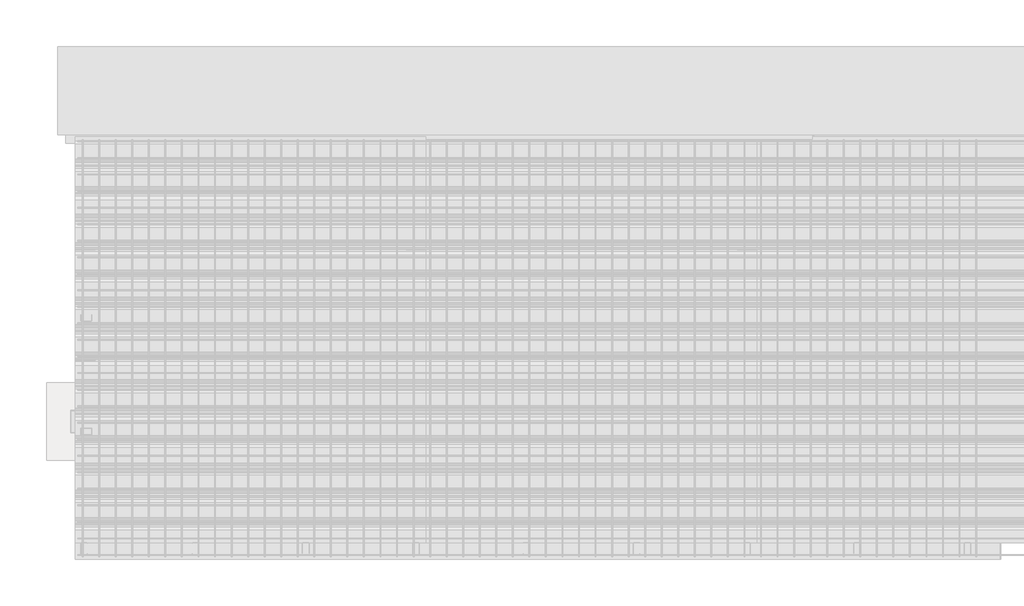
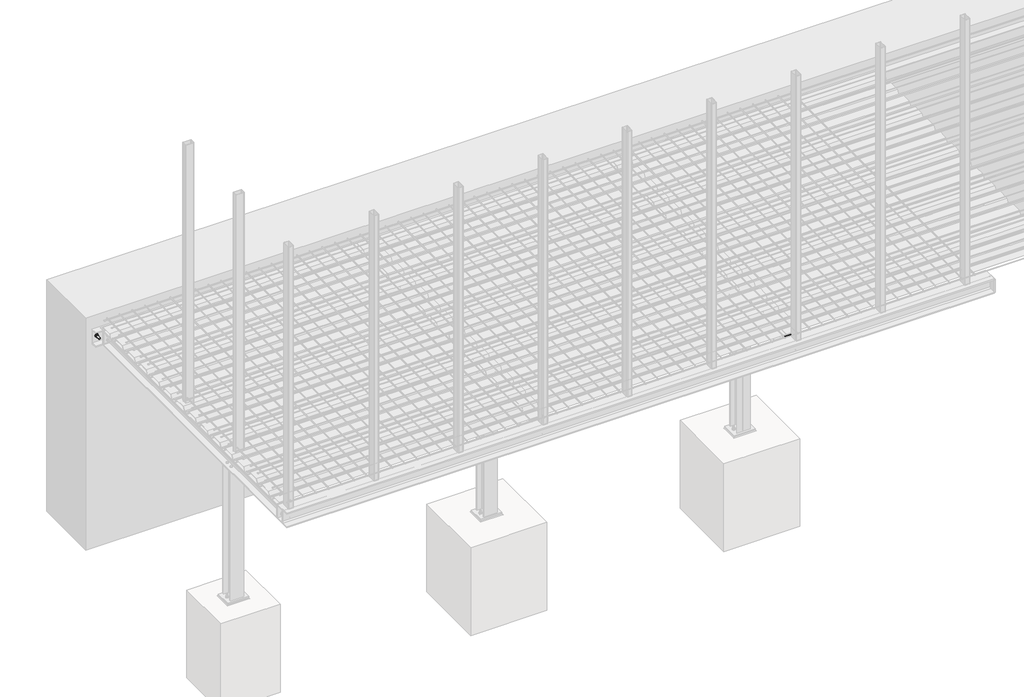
# One storey, part 9 of 36: 12 proxies.
"""IFC4 building model written with IfcOpenShell, lengths in millimetres."""

from ifc_helpers import new_model, si_unit, point, frame, frame_2d, origin, place, context, project, spatial, polyline, circle_curve, trimmed, segment, composite_curve, outline, extrude, element, save

model = new_model("IFC4")

# Units and contexts
model_context = context("Model", 3, world=origin())
ifc_project = project(units=[si_unit("LENGTHUNIT", "METRE", prefix="MILLI")], contexts=[model_context])

# Site, building, storey
site = spatial("IfcSite", under=ifc_project)
building = spatial("IfcBuilding", under=site)
storey = spatial("IfcBuildingStorey", under=building, Name="Základy", Elevation=-1200.0)

# Proxies
placement = place(None, origin())
element("IfcBuildingElementProxy", 1, Name="PLECH", ObjectType="PLECH", at=placement, inside=storey, context=model_context, shape_type="SweptSolid", body=[
    extrude(outline(polyline([(5940.0, 1200.0), (5940.0, 1320.0), (5950.0, 1320.0), (5950.0, 1200.0), (5940.0, 1200.0)])), frame((0.0, 0.0, -299.0), z_axis=(0.0, 0.0, 1.0), x_axis=(1.0, 0.0, 0.0)), (0.0, 0.0, 1.0), 98.0),
])
element("IfcBuildingElementProxy", 2, Name="PLECH", ObjectType="PLECH", at=placement, inside=storey, context=model_context, shape_type="SweptSolid", body=[
    extrude(outline(polyline([(2960.0, 3775.0), (3140.0, 3775.0), (3140.0, 3767.0), (2960.0, 3767.0), (2960.0, 3775.0)])), frame((0.0, 0.0, -316.0), z_axis=(0.0, 0.0, 1.0), x_axis=(1.0, 0.0, 0.0)), (0.0, 0.0, 1.0), 132.0),
])
element("IfcBuildingElementProxy", 3, Name="PLECH", ObjectType="PLECH", at=placement, inside=storey, context=model_context, shape_type="SweptSolid", body=[
    extrude(outline(polyline([(5950.0, 1200.0), (5950.0, 1320.0), (5960.0, 1320.0), (5960.0, 1200.0), (5950.0, 1200.0)])), frame((0.0, 0.0, -332.0), z_axis=(0.0, 0.0, 1.0), x_axis=(1.0, 0.0, 0.0)), (0.0, 0.0, 1.0), 164.0),
])
element("IfcBuildingElementProxy", 4, Name="PLECH", ObjectType="PLECH", at=placement, inside=storey, context=model_context, shape_type="SweptSolid", body=[
    extrude(outline(polyline([(5960.0, 210.0), (6140.0, 210.0), (6140.0, 200.0), (5960.0, 200.0), (5960.0, 210.0)])), frame((0.0, 0.0, -332.0), z_axis=(0.0, 0.0, 1.0), x_axis=(1.0, 0.0, 0.0)), (0.0, 0.0, 1.0), 164.0),
])
element("IfcBuildingElementProxy", 5, Name="PLECH", ObjectType="PLECH", at=placement, inside=storey, context=model_context, shape_type="SweptSolid", body=[
    extrude(outline(composite_curve([segment(polyline([(3785.0, -170.5), (3834.5, -170.5)]), True, "CONTINUOUS"), segment(trimmed(circle_curve(frame_2d((3854.5, -170.5)), 20.0), [point((3834.5, -170.5))], [point((3854.5, -190.5))], True, "CARTESIAN"), True, "CONTINUOUS"), segment(polyline([(3854.5, -190.5), (3854.5, -309.5)]), True, "CONTINUOUS"), segment(trimmed(circle_curve(frame_2d((3854.5, -329.5)), 20.0), [point((3854.5, -309.5))], [point((3834.5, -329.5))], True, "CARTESIAN"), True, "CONTINUOUS"), segment(polyline([(3834.5, -329.5), (3785.0, -329.5), (3785.0, -170.5)]), True, "CONTINUOUS")], self_intersect=False)), frame((3046.0, 0.0, 0.0), z_axis=(1.0, 0.0, 0.0), x_axis=(0.0, 1.0, 0.0)), (0.0, 0.0, 1.0), 8.0),
])
element("IfcBuildingElementProxy", 6, Name="PLECH", ObjectType="PLECH", at=placement, inside=storey, context=model_context, shape_type="SweptSolid", body=[
    extrude(outline(polyline([(2960.0, 3785.0), (3140.0, 3785.0), (3140.0, 3775.0), (2960.0, 3775.0), (2960.0, 3785.0)])), frame((0.0, 0.0, -332.0), z_axis=(0.0, 0.0, 1.0), x_axis=(1.0, 0.0, 0.0)), (0.0, 0.0, 1.0), 164.0),
])
element("IfcBuildingElementProxy", 7, Name="PLECH", ObjectType="PLECH", at=placement, inside=storey, context=model_context, shape_type="SweptSolid", body=[
    extrude(outline(composite_curve([segment(polyline([(190.0, -174.0), (190.0, -326.0), (124.25, -326.0)]), True, "CONTINUOUS"), segment(trimmed(circle_curve(frame_2d((104.25, -326.0)), 20.0), [point((124.25, -326.0))], [point((104.25, -306.0))], True, "CARTESIAN"), True, "CONTINUOUS"), segment(polyline([(104.25, -306.0), (104.25, -194.0)]), True, "CONTINUOUS"), segment(trimmed(circle_curve(frame_2d((104.25, -174.0)), 20.0), [point((104.25, -194.0))], [point((124.25, -174.0))], True, "CARTESIAN"), True, "CONTINUOUS"), segment(polyline([(124.25, -174.0), (190.0, -174.0)]), True, "CONTINUOUS")], self_intersect=False)), frame((6046.0, 0.0, 0.0), z_axis=(1.0, 0.0, 0.0), x_axis=(0.0, 1.0, 0.0)), (0.0, 0.0, 1.0), 8.0),
])
element("IfcBuildingElementProxy", 8, Name="PLECH", ObjectType="PLECH", at=placement, inside=storey, context=model_context, shape_type="SweptSolid", body=[
    extrude(outline(polyline([(5960.0, 200.0), (6140.0, 200.0), (6140.0, 190.0), (5960.0, 190.0), (5960.0, 200.0)])), frame((0.0, 0.0, -332.0), z_axis=(0.0, 0.0, 1.0), x_axis=(1.0, 0.0, 0.0)), (0.0, 0.0, 1.0), 164.0),
])
element("IfcBuildingElementProxy", 9, Name="Bolt assembly", ObjectType="Bolt assembly", at=placement, inside=storey, context=model_context, shape_type="SweptSolid", body=[
    extrude(outline(composite_curve([segment(trimmed(circle_curve(frame_2d((1230.0, -225.0)), 6.5), [point((1230.0, -231.5))], [point((1230.0, -218.5))], False, "CARTESIAN"), True, "CONTINUOUS"), segment(trimmed(circle_curve(frame_2d((1230.0, -225.0)), 6.5), [point((1230.0, -218.5))], [point((1230.0, -231.5))], False, "CARTESIAN"), True, "CONTINUOUS")], self_intersect=False)), frame((5949.9, 0.0, 0.0), z_axis=(1.0, 0.0, 0.0), x_axis=(0.0, 1.0, 0.0)), (0.0, 0.0, 1.0), 10.0),
    extrude(outline(polyline([(1230.0, -235.3923048), (1221.0, -230.1961524), (1221.0, -219.8038476), (1230.0, -214.6076952), (1239.0, -219.8038476), (1239.0, -230.1961524), (1230.0, -235.3923048)])), frame((5962.5, 0.0, 0.0), z_axis=(1.0, 0.0, 0.0), x_axis=(0.0, 1.0, 0.0)), (0.0, 0.0, 1.0), 7.5),
    extrude(outline(composite_curve([segment(trimmed(circle_curve(frame_2d((1230.0, -225.0)), 6.0), [point((1230.0, -231.0))], [point((1230.0, -219.0))], False, "CARTESIAN"), True, "CONTINUOUS"), segment(trimmed(circle_curve(frame_2d((1230.0, -225.0)), 6.0), [point((1230.0, -219.0))], [point((1230.0, -231.0))], False, "CARTESIAN"), True, "CONTINUOUS")], self_intersect=False)), frame((5922.5, 0.0, 0.0), z_axis=(1.0, 0.0, 0.0), x_axis=(0.0, 1.0, 0.0)), (0.0, 0.0, 1.0), 40.0),
    extrude(outline(composite_curve([segment(trimmed(circle_curve(frame_2d((1230.0, -225.0)), 12.0), [point((1230.0, -237.0))], [point((1230.0, -213.0))], False, "CARTESIAN"), True, "CONTINUOUS"), segment(trimmed(circle_curve(frame_2d((1230.0, -225.0)), 12.0), [point((1230.0, -213.0))], [point((1230.0, -237.0))], False, "CARTESIAN"), True, "CONTINUOUS")], self_intersect=False)), frame((5960.0, 0.0, 0.0), z_axis=(1.0, 0.0, 0.0), x_axis=(0.0, 1.0, 0.0)), (0.0, 0.0, 1.0), 2.5),
    extrude(outline(composite_curve([segment(trimmed(circle_curve(frame_2d((1230.0, -225.0)), 12.0), [point((1230.0, -237.0))], [point((1230.0, -213.0))], False, "CARTESIAN"), True, "CONTINUOUS"), segment(trimmed(circle_curve(frame_2d((1230.0, -225.0)), 12.0), [point((1230.0, -213.0))], [point((1230.0, -237.0))], False, "CARTESIAN"), True, "CONTINUOUS")], self_intersect=False)), frame((5937.5, 0.0, 0.0), z_axis=(1.0, 0.0, 0.0), x_axis=(0.0, 1.0, 0.0)), (0.0, 0.0, 1.0), 2.5),
    extrude(outline(polyline([(1230.0, -235.9696551), (1220.5, -230.4848276), (1220.5, -219.5151724), (1230.0, -214.0303449), (1239.5, -219.5151724), (1239.5, -230.4848276), (1230.0, -235.9696551)])), frame((5927.5, 0.0, 0.0), z_axis=(1.0, 0.0, 0.0), x_axis=(0.0, 1.0, 0.0)), (0.0, 0.0, 1.0), 10.0),
    extrude(outline(composite_curve([segment(trimmed(circle_curve(frame_2d((1230.0, -225.0)), 6.5), [point((1230.0, -231.5))], [point((1230.0, -218.5))], False, "CARTESIAN"), True, "CONTINUOUS"), segment(trimmed(circle_curve(frame_2d((1230.0, -225.0)), 6.5), [point((1230.0, -218.5))], [point((1230.0, -231.5))], False, "CARTESIAN"), True, "CONTINUOUS")], self_intersect=False)), frame((5940.0, 0.0, 0.0), z_axis=(1.0, 0.0, 0.0), x_axis=(0.0, 1.0, 0.0)), (0.0, 0.0, 1.0), 10.1),
    extrude(outline(composite_curve([segment(trimmed(circle_curve(frame_2d((1230.0, -275.0)), 6.5), [point((1230.0, -281.5))], [point((1230.0, -268.5))], False, "CARTESIAN"), True, "CONTINUOUS"), segment(trimmed(circle_curve(frame_2d((1230.0, -275.0)), 6.5), [point((1230.0, -268.5))], [point((1230.0, -281.5))], False, "CARTESIAN"), True, "CONTINUOUS")], self_intersect=False)), frame((5949.9, 0.0, 0.0), z_axis=(1.0, 0.0, 0.0), x_axis=(0.0, 1.0, 0.0)), (0.0, 0.0, 1.0), 10.0),
    extrude(outline(polyline([(1230.0, -285.3923048), (1221.0, -280.1961524), (1221.0, -269.8038476), (1230.0, -264.6076952), (1239.0, -269.8038476), (1239.0, -280.1961524), (1230.0, -285.3923048)])), frame((5962.5, 0.0, 0.0), z_axis=(1.0, 0.0, 0.0), x_axis=(0.0, 1.0, 0.0)), (0.0, 0.0, 1.0), 7.5),
    extrude(outline(composite_curve([segment(trimmed(circle_curve(frame_2d((1230.0, -275.0)), 6.0), [point((1230.0, -281.0))], [point((1230.0, -269.0))], False, "CARTESIAN"), True, "CONTINUOUS"), segment(trimmed(circle_curve(frame_2d((1230.0, -275.0)), 6.0), [point((1230.0, -269.0))], [point((1230.0, -281.0))], False, "CARTESIAN"), True, "CONTINUOUS")], self_intersect=False)), frame((5922.5, 0.0, 0.0), z_axis=(1.0, 0.0, 0.0), x_axis=(0.0, 1.0, 0.0)), (0.0, 0.0, 1.0), 40.0),
    extrude(outline(composite_curve([segment(trimmed(circle_curve(frame_2d((1230.0, -275.0)), 12.0), [point((1230.0, -287.0))], [point((1230.0, -263.0))], False, "CARTESIAN"), True, "CONTINUOUS"), segment(trimmed(circle_curve(frame_2d((1230.0, -275.0)), 12.0), [point((1230.0, -263.0))], [point((1230.0, -287.0))], False, "CARTESIAN"), True, "CONTINUOUS")], self_intersect=False)), frame((5960.0, 0.0, 0.0), z_axis=(1.0, 0.0, 0.0), x_axis=(0.0, 1.0, 0.0)), (0.0, 0.0, 1.0), 2.5),
    extrude(outline(composite_curve([segment(trimmed(circle_curve(frame_2d((1230.0, -275.0)), 12.0), [point((1230.0, -287.0))], [point((1230.0, -263.0))], False, "CARTESIAN"), True, "CONTINUOUS"), segment(trimmed(circle_curve(frame_2d((1230.0, -275.0)), 12.0), [point((1230.0, -263.0))], [point((1230.0, -287.0))], False, "CARTESIAN"), True, "CONTINUOUS")], self_intersect=False)), frame((5937.5, 0.0, 0.0), z_axis=(1.0, 0.0, 0.0), x_axis=(0.0, 1.0, 0.0)), (0.0, 0.0, 1.0), 2.5),
    extrude(outline(polyline([(1230.0, -285.9696551), (1220.5, -280.4848276), (1220.5, -269.5151724), (1230.0, -264.0303449), (1239.5, -269.5151724), (1239.5, -280.4848276), (1230.0, -285.9696551)])), frame((5927.5, 0.0, 0.0), z_axis=(1.0, 0.0, 0.0), x_axis=(0.0, 1.0, 0.0)), (0.0, 0.0, 1.0), 10.0),
    extrude(outline(composite_curve([segment(trimmed(circle_curve(frame_2d((1230.0, -275.0)), 6.5), [point((1230.0, -281.5))], [point((1230.0, -268.5))], False, "CARTESIAN"), True, "CONTINUOUS"), segment(trimmed(circle_curve(frame_2d((1230.0, -275.0)), 6.5), [point((1230.0, -268.5))], [point((1230.0, -281.5))], False, "CARTESIAN"), True, "CONTINUOUS")], self_intersect=False)), frame((5940.0, 0.0, 0.0), z_axis=(1.0, 0.0, 0.0), x_axis=(0.0, 1.0, 0.0)), (0.0, 0.0, 1.0), 10.1),
    extrude(outline(composite_curve([segment(trimmed(circle_curve(frame_2d((1290.0, -225.0)), 6.5), [point((1290.0, -231.5))], [point((1290.0, -218.5))], False, "CARTESIAN"), True, "CONTINUOUS"), segment(trimmed(circle_curve(frame_2d((1290.0, -225.0)), 6.5), [point((1290.0, -218.5))], [point((1290.0, -231.5))], False, "CARTESIAN"), True, "CONTINUOUS")], self_intersect=False)), frame((5949.9, 0.0, 0.0), z_axis=(1.0, 0.0, 0.0), x_axis=(0.0, 1.0, 0.0)), (0.0, 0.0, 1.0), 10.0),
    extrude(outline(polyline([(1290.0, -235.3923048), (1281.0, -230.1961524), (1281.0, -219.8038476), (1290.0, -214.6076952), (1299.0, -219.8038476), (1299.0, -230.1961524), (1290.0, -235.3923048)])), frame((5962.5, 0.0, 0.0), z_axis=(1.0, 0.0, 0.0), x_axis=(0.0, 1.0, 0.0)), (0.0, 0.0, 1.0), 7.5),
    extrude(outline(composite_curve([segment(trimmed(circle_curve(frame_2d((1290.0, -225.0)), 6.0), [point((1290.0, -231.0))], [point((1290.0, -219.0))], False, "CARTESIAN"), True, "CONTINUOUS"), segment(trimmed(circle_curve(frame_2d((1290.0, -225.0)), 6.0), [point((1290.0, -219.0))], [point((1290.0, -231.0))], False, "CARTESIAN"), True, "CONTINUOUS")], self_intersect=False)), frame((5922.5, 0.0, 0.0), z_axis=(1.0, 0.0, 0.0), x_axis=(0.0, 1.0, 0.0)), (0.0, 0.0, 1.0), 40.0),
    extrude(outline(composite_curve([segment(trimmed(circle_curve(frame_2d((1290.0, -225.0)), 12.0), [point((1290.0, -237.0))], [point((1290.0, -213.0))], False, "CARTESIAN"), True, "CONTINUOUS"), segment(trimmed(circle_curve(frame_2d((1290.0, -225.0)), 12.0), [point((1290.0, -213.0))], [point((1290.0, -237.0))], False, "CARTESIAN"), True, "CONTINUOUS")], self_intersect=False)), frame((5960.0, 0.0, 0.0), z_axis=(1.0, 0.0, 0.0), x_axis=(0.0, 1.0, 0.0)), (0.0, 0.0, 1.0), 2.5),
    extrude(outline(composite_curve([segment(trimmed(circle_curve(frame_2d((1290.0, -225.0)), 12.0), [point((1290.0, -237.0))], [point((1290.0, -213.0))], False, "CARTESIAN"), True, "CONTINUOUS"), segment(trimmed(circle_curve(frame_2d((1290.0, -225.0)), 12.0), [point((1290.0, -213.0))], [point((1290.0, -237.0))], False, "CARTESIAN"), True, "CONTINUOUS")], self_intersect=False)), frame((5937.5, 0.0, 0.0), z_axis=(1.0, 0.0, 0.0), x_axis=(0.0, 1.0, 0.0)), (0.0, 0.0, 1.0), 2.5),
    extrude(outline(polyline([(1290.0, -235.9696551), (1280.5, -230.4848276), (1280.5, -219.5151724), (1290.0, -214.0303449), (1299.5, -219.5151724), (1299.5, -230.4848276), (1290.0, -235.9696551)])), frame((5927.5, 0.0, 0.0), z_axis=(1.0, 0.0, 0.0), x_axis=(0.0, 1.0, 0.0)), (0.0, 0.0, 1.0), 10.0),
    extrude(outline(composite_curve([segment(trimmed(circle_curve(frame_2d((1290.0, -225.0)), 6.5), [point((1290.0, -231.5))], [point((1290.0, -218.5))], False, "CARTESIAN"), True, "CONTINUOUS"), segment(trimmed(circle_curve(frame_2d((1290.0, -225.0)), 6.5), [point((1290.0, -218.5))], [point((1290.0, -231.5))], False, "CARTESIAN"), True, "CONTINUOUS")], self_intersect=False)), frame((5940.0, 0.0, 0.0), z_axis=(1.0, 0.0, 0.0), x_axis=(0.0, 1.0, 0.0)), (0.0, 0.0, 1.0), 10.1),
    extrude(outline(composite_curve([segment(trimmed(circle_curve(frame_2d((1290.0, -275.0)), 6.5), [point((1290.0, -281.5))], [point((1290.0, -268.5))], False, "CARTESIAN"), True, "CONTINUOUS"), segment(trimmed(circle_curve(frame_2d((1290.0, -275.0)), 6.5), [point((1290.0, -268.5))], [point((1290.0, -281.5))], False, "CARTESIAN"), True, "CONTINUOUS")], self_intersect=False)), frame((5949.9, 0.0, 0.0), z_axis=(1.0, 0.0, 0.0), x_axis=(0.0, 1.0, 0.0)), (0.0, 0.0, 1.0), 10.0),
    extrude(outline(polyline([(1290.0, -285.3923048), (1281.0, -280.1961524), (1281.0, -269.8038476), (1290.0, -264.6076952), (1299.0, -269.8038476), (1299.0, -280.1961524), (1290.0, -285.3923048)])), frame((5962.5, 0.0, 0.0), z_axis=(1.0, 0.0, 0.0), x_axis=(0.0, 1.0, 0.0)), (0.0, 0.0, 1.0), 7.5),
    extrude(outline(composite_curve([segment(trimmed(circle_curve(frame_2d((1290.0, -275.0)), 6.0), [point((1290.0, -281.0))], [point((1290.0, -269.0))], False, "CARTESIAN"), True, "CONTINUOUS"), segment(trimmed(circle_curve(frame_2d((1290.0, -275.0)), 6.0), [point((1290.0, -269.0))], [point((1290.0, -281.0))], False, "CARTESIAN"), True, "CONTINUOUS")], self_intersect=False)), frame((5922.5, 0.0, 0.0), z_axis=(1.0, 0.0, 0.0), x_axis=(0.0, 1.0, 0.0)), (0.0, 0.0, 1.0), 40.0),
    extrude(outline(composite_curve([segment(trimmed(circle_curve(frame_2d((1290.0, -275.0)), 12.0), [point((1290.0, -287.0))], [point((1290.0, -263.0))], False, "CARTESIAN"), True, "CONTINUOUS"), segment(trimmed(circle_curve(frame_2d((1290.0, -275.0)), 12.0), [point((1290.0, -263.0))], [point((1290.0, -287.0))], False, "CARTESIAN"), True, "CONTINUOUS")], self_intersect=False)), frame((5960.0, 0.0, 0.0), z_axis=(1.0, 0.0, 0.0), x_axis=(0.0, 1.0, 0.0)), (0.0, 0.0, 1.0), 2.5),
    extrude(outline(composite_curve([segment(trimmed(circle_curve(frame_2d((1290.0, -275.0)), 12.0), [point((1290.0, -287.0))], [point((1290.0, -263.0))], False, "CARTESIAN"), True, "CONTINUOUS"), segment(trimmed(circle_curve(frame_2d((1290.0, -275.0)), 12.0), [point((1290.0, -263.0))], [point((1290.0, -287.0))], False, "CARTESIAN"), True, "CONTINUOUS")], self_intersect=False)), frame((5937.5, 0.0, 0.0), z_axis=(1.0, 0.0, 0.0), x_axis=(0.0, 1.0, 0.0)), (0.0, 0.0, 1.0), 2.5),
    extrude(outline(polyline([(1290.0, -285.9696551), (1280.5, -280.4848276), (1280.5, -269.5151724), (1290.0, -264.0303449), (1299.5, -269.5151724), (1299.5, -280.4848276), (1290.0, -285.9696551)])), frame((5927.5, 0.0, 0.0), z_axis=(1.0, 0.0, 0.0), x_axis=(0.0, 1.0, 0.0)), (0.0, 0.0, 1.0), 10.0),
    extrude(outline(composite_curve([segment(trimmed(circle_curve(frame_2d((1290.0, -275.0)), 6.5), [point((1290.0, -281.5))], [point((1290.0, -268.5))], False, "CARTESIAN"), True, "CONTINUOUS"), segment(trimmed(circle_curve(frame_2d((1290.0, -275.0)), 6.5), [point((1290.0, -268.5))], [point((1290.0, -281.5))], False, "CARTESIAN"), True, "CONTINUOUS")], self_intersect=False)), frame((5940.0, 0.0, 0.0), z_axis=(1.0, 0.0, 0.0), x_axis=(0.0, 1.0, 0.0)), (0.0, 0.0, 1.0), 10.1),
])
element("IfcBuildingElementProxy", 10, Name="Bolt assembly", ObjectType="Bolt assembly", at=placement, inside=storey, context=model_context, shape_type="SweptSolid", body=[
    extrude(outline(composite_curve([segment(trimmed(circle_curve(frame_2d((-220.0, 3005.0)), 9.0), [point((-220.0, 3014.0))], [point((-220.0, 2996.0))], False, "CARTESIAN"), True, "CONTINUOUS"), segment(trimmed(circle_curve(frame_2d((-220.0, 3005.0)), 9.0), [point((-220.0, 2996.0))], [point((-220.0, 3014.0))], False, "CARTESIAN"), True, "CONTINUOUS")], self_intersect=False)), frame((0.0, 3774.9, 0.0), z_axis=(0.0, 1.0, 0.0), x_axis=(0.0, 0.0, 1.0)), (0.0, 0.0, 1.0), 10.0),
    extrude(outline(polyline([(-220.0, 3018.8564065), (-208.0, 3011.9282032), (-208.0, 2998.0717968), (-220.0, 2991.1435935), (-232.0, 2998.0717968), (-232.0, 3011.9282032), (-220.0, 3018.8564065)])), frame((0.0, 3788.0, 0.0), z_axis=(0.0, 1.0, 0.0), x_axis=(0.0, 0.0, 1.0)), (0.0, 0.0, 1.0), 10.0),
    extrude(outline(composite_curve([segment(trimmed(circle_curve(frame_2d((-220.0, 3005.0)), 8.0), [point((-220.0, 3013.0))], [point((-220.0, 2997.0))], False, "CARTESIAN"), True, "CONTINUOUS"), segment(trimmed(circle_curve(frame_2d((-220.0, 3005.0)), 8.0), [point((-220.0, 2997.0))], [point((-220.0, 3013.0))], False, "CARTESIAN"), True, "CONTINUOUS")], self_intersect=False)), frame((0.0, 3738.0, 0.0), z_axis=(0.0, 1.0, 0.0), x_axis=(0.0, 0.0, 1.0)), (0.0, 0.0, 1.0), 50.0),
    extrude(outline(composite_curve([segment(trimmed(circle_curve(frame_2d((-220.0, 3005.0)), 15.0), [point((-220.0, 3020.0))], [point((-220.0, 2990.0))], False, "CARTESIAN"), True, "CONTINUOUS"), segment(trimmed(circle_curve(frame_2d((-220.0, 3005.0)), 15.0), [point((-220.0, 2990.0))], [point((-220.0, 3020.0))], False, "CARTESIAN"), True, "CONTINUOUS")], self_intersect=False)), frame((0.0, 3785.0, 0.0), z_axis=(0.0, 1.0, 0.0), x_axis=(0.0, 0.0, 1.0)), (0.0, 0.0, 1.0), 3.0),
    extrude(outline(composite_curve([segment(trimmed(circle_curve(frame_2d((-220.0, 3005.0)), 15.0), [point((-220.0, 3020.0))], [point((-220.0, 2990.0))], False, "CARTESIAN"), True, "CONTINUOUS"), segment(trimmed(circle_curve(frame_2d((-220.0, 3005.0)), 15.0), [point((-220.0, 2990.0))], [point((-220.0, 3020.0))], False, "CARTESIAN"), True, "CONTINUOUS")], self_intersect=False)), frame((0.0, 3764.0, 0.0), z_axis=(0.0, 1.0, 0.0), x_axis=(0.0, 0.0, 1.0)), (0.0, 0.0, 1.0), 3.0),
    extrude(outline(polyline([(-220.0, 3020.4441197), (-206.625, 3012.7220599), (-206.625, 2997.2779401), (-220.0, 2989.5558803), (-233.375, 2997.2779401), (-233.375, 3012.7220599), (-220.0, 3020.4441197)])), frame((0.0, 3751.0, 0.0), z_axis=(0.0, 1.0, 0.0), x_axis=(0.0, 0.0, 1.0)), (0.0, 0.0, 1.0), 13.0),
    extrude(outline(composite_curve([segment(trimmed(circle_curve(frame_2d((-220.0, 3005.0)), 9.0), [point((-220.0, 3014.0))], [point((-220.0, 2996.0))], False, "CARTESIAN"), True, "CONTINUOUS"), segment(trimmed(circle_curve(frame_2d((-220.0, 3005.0)), 9.0), [point((-220.0, 2996.0))], [point((-220.0, 3014.0))], False, "CARTESIAN"), True, "CONTINUOUS")], self_intersect=False)), frame((0.0, 3767.0, 0.0), z_axis=(0.0, 1.0, 0.0), x_axis=(0.0, 0.0, 1.0)), (0.0, 0.0, 1.0), 8.1),
    extrude(outline(composite_curve([segment(trimmed(circle_curve(frame_2d((-220.0, 3095.0)), 9.0), [point((-220.0, 3104.0))], [point((-220.0, 3086.0))], False, "CARTESIAN"), True, "CONTINUOUS"), segment(trimmed(circle_curve(frame_2d((-220.0, 3095.0)), 9.0), [point((-220.0, 3086.0))], [point((-220.0, 3104.0))], False, "CARTESIAN"), True, "CONTINUOUS")], self_intersect=False)), frame((0.0, 3774.9, 0.0), z_axis=(0.0, 1.0, 0.0), x_axis=(0.0, 0.0, 1.0)), (0.0, 0.0, 1.0), 10.0),
    extrude(outline(polyline([(-220.0, 3108.8564065), (-208.0, 3101.9282032), (-208.0, 3088.0717968), (-220.0, 3081.1435935), (-232.0, 3088.0717968), (-232.0, 3101.9282032), (-220.0, 3108.8564065)])), frame((0.0, 3788.0, 0.0), z_axis=(0.0, 1.0, 0.0), x_axis=(0.0, 0.0, 1.0)), (0.0, 0.0, 1.0), 10.0),
    extrude(outline(composite_curve([segment(trimmed(circle_curve(frame_2d((-220.0, 3095.0)), 8.0), [point((-220.0, 3103.0))], [point((-220.0, 3087.0))], False, "CARTESIAN"), True, "CONTINUOUS"), segment(trimmed(circle_curve(frame_2d((-220.0, 3095.0)), 8.0), [point((-220.0, 3087.0))], [point((-220.0, 3103.0))], False, "CARTESIAN"), True, "CONTINUOUS")], self_intersect=False)), frame((0.0, 3738.0, 0.0), z_axis=(0.0, 1.0, 0.0), x_axis=(0.0, 0.0, 1.0)), (0.0, 0.0, 1.0), 50.0),
    extrude(outline(composite_curve([segment(trimmed(circle_curve(frame_2d((-220.0, 3095.0)), 15.0), [point((-220.0, 3110.0))], [point((-220.0, 3080.0))], False, "CARTESIAN"), True, "CONTINUOUS"), segment(trimmed(circle_curve(frame_2d((-220.0, 3095.0)), 15.0), [point((-220.0, 3080.0))], [point((-220.0, 3110.0))], False, "CARTESIAN"), True, "CONTINUOUS")], self_intersect=False)), frame((0.0, 3785.0, 0.0), z_axis=(0.0, 1.0, 0.0), x_axis=(0.0, 0.0, 1.0)), (0.0, 0.0, 1.0), 3.0),
    extrude(outline(composite_curve([segment(trimmed(circle_curve(frame_2d((-220.0, 3095.0)), 15.0), [point((-220.0, 3110.0))], [point((-220.0, 3080.0))], False, "CARTESIAN"), True, "CONTINUOUS"), segment(trimmed(circle_curve(frame_2d((-220.0, 3095.0)), 15.0), [point((-220.0, 3080.0))], [point((-220.0, 3110.0))], False, "CARTESIAN"), True, "CONTINUOUS")], self_intersect=False)), frame((0.0, 3764.0, 0.0), z_axis=(0.0, 1.0, 0.0), x_axis=(0.0, 0.0, 1.0)), (0.0, 0.0, 1.0), 3.0),
    extrude(outline(polyline([(-220.0, 3110.4441197), (-206.625, 3102.7220599), (-206.625, 3087.2779401), (-220.0, 3079.5558803), (-233.375, 3087.2779401), (-233.375, 3102.7220599), (-220.0, 3110.4441197)])), frame((0.0, 3751.0, 0.0), z_axis=(0.0, 1.0, 0.0), x_axis=(0.0, 0.0, 1.0)), (0.0, 0.0, 1.0), 13.0),
    extrude(outline(composite_curve([segment(trimmed(circle_curve(frame_2d((-220.0, 3095.0)), 9.0), [point((-220.0, 3104.0))], [point((-220.0, 3086.0))], False, "CARTESIAN"), True, "CONTINUOUS"), segment(trimmed(circle_curve(frame_2d((-220.0, 3095.0)), 9.0), [point((-220.0, 3086.0))], [point((-220.0, 3104.0))], False, "CARTESIAN"), True, "CONTINUOUS")], self_intersect=False)), frame((0.0, 3767.0, 0.0), z_axis=(0.0, 1.0, 0.0), x_axis=(0.0, 0.0, 1.0)), (0.0, 0.0, 1.0), 8.1),
    extrude(outline(composite_curve([segment(trimmed(circle_curve(frame_2d((-280.0, 3005.0)), 9.0), [point((-280.0, 3014.0))], [point((-280.0, 2996.0))], False, "CARTESIAN"), True, "CONTINUOUS"), segment(trimmed(circle_curve(frame_2d((-280.0, 3005.0)), 9.0), [point((-280.0, 2996.0))], [point((-280.0, 3014.0))], False, "CARTESIAN"), True, "CONTINUOUS")], self_intersect=False)), frame((0.0, 3774.9, 0.0), z_axis=(0.0, 1.0, 0.0), x_axis=(0.0, 0.0, 1.0)), (0.0, 0.0, 1.0), 10.0),
    extrude(outline(polyline([(-280.0, 3018.8564065), (-268.0, 3011.9282032), (-268.0, 2998.0717968), (-280.0, 2991.1435935), (-292.0, 2998.0717968), (-292.0, 3011.9282032), (-280.0, 3018.8564065)])), frame((0.0, 3788.0, 0.0), z_axis=(0.0, 1.0, 0.0), x_axis=(0.0, 0.0, 1.0)), (0.0, 0.0, 1.0), 10.0),
    extrude(outline(composite_curve([segment(trimmed(circle_curve(frame_2d((-280.0, 3005.0)), 8.0), [point((-280.0, 3013.0))], [point((-280.0, 2997.0))], False, "CARTESIAN"), True, "CONTINUOUS"), segment(trimmed(circle_curve(frame_2d((-280.0, 3005.0)), 8.0), [point((-280.0, 2997.0))], [point((-280.0, 3013.0))], False, "CARTESIAN"), True, "CONTINUOUS")], self_intersect=False)), frame((0.0, 3738.0, 0.0), z_axis=(0.0, 1.0, 0.0), x_axis=(0.0, 0.0, 1.0)), (0.0, 0.0, 1.0), 50.0),
    extrude(outline(composite_curve([segment(trimmed(circle_curve(frame_2d((-280.0, 3005.0)), 15.0), [point((-280.0, 3020.0))], [point((-280.0, 2990.0))], False, "CARTESIAN"), True, "CONTINUOUS"), segment(trimmed(circle_curve(frame_2d((-280.0, 3005.0)), 15.0), [point((-280.0, 2990.0))], [point((-280.0, 3020.0))], False, "CARTESIAN"), True, "CONTINUOUS")], self_intersect=False)), frame((0.0, 3785.0, 0.0), z_axis=(0.0, 1.0, 0.0), x_axis=(0.0, 0.0, 1.0)), (0.0, 0.0, 1.0), 3.0),
    extrude(outline(composite_curve([segment(trimmed(circle_curve(frame_2d((-280.0, 3005.0)), 15.0), [point((-280.0, 3020.0))], [point((-280.0, 2990.0))], False, "CARTESIAN"), True, "CONTINUOUS"), segment(trimmed(circle_curve(frame_2d((-280.0, 3005.0)), 15.0), [point((-280.0, 2990.0))], [point((-280.0, 3020.0))], False, "CARTESIAN"), True, "CONTINUOUS")], self_intersect=False)), frame((0.0, 3764.0, 0.0), z_axis=(0.0, 1.0, 0.0), x_axis=(0.0, 0.0, 1.0)), (0.0, 0.0, 1.0), 3.0),
    extrude(outline(polyline([(-280.0, 3020.4441197), (-266.625, 3012.7220599), (-266.625, 2997.2779401), (-280.0, 2989.5558803), (-293.375, 2997.2779401), (-293.375, 3012.7220599), (-280.0, 3020.4441197)])), frame((0.0, 3751.0, 0.0), z_axis=(0.0, 1.0, 0.0), x_axis=(0.0, 0.0, 1.0)), (0.0, 0.0, 1.0), 13.0),
    extrude(outline(composite_curve([segment(trimmed(circle_curve(frame_2d((-280.0, 3005.0)), 9.0), [point((-280.0, 3014.0))], [point((-280.0, 2996.0))], False, "CARTESIAN"), True, "CONTINUOUS"), segment(trimmed(circle_curve(frame_2d((-280.0, 3005.0)), 9.0), [point((-280.0, 2996.0))], [point((-280.0, 3014.0))], False, "CARTESIAN"), True, "CONTINUOUS")], self_intersect=False)), frame((0.0, 3767.0, 0.0), z_axis=(0.0, 1.0, 0.0), x_axis=(0.0, 0.0, 1.0)), (0.0, 0.0, 1.0), 8.1),
    extrude(outline(composite_curve([segment(trimmed(circle_curve(frame_2d((-280.0, 3095.0)), 9.0), [point((-280.0, 3104.0))], [point((-280.0, 3086.0))], False, "CARTESIAN"), True, "CONTINUOUS"), segment(trimmed(circle_curve(frame_2d((-280.0, 3095.0)), 9.0), [point((-280.0, 3086.0))], [point((-280.0, 3104.0))], False, "CARTESIAN"), True, "CONTINUOUS")], self_intersect=False)), frame((0.0, 3774.9, 0.0), z_axis=(0.0, 1.0, 0.0), x_axis=(0.0, 0.0, 1.0)), (0.0, 0.0, 1.0), 10.0),
    extrude(outline(polyline([(-280.0, 3108.8564065), (-268.0, 3101.9282032), (-268.0, 3088.0717968), (-280.0, 3081.1435935), (-292.0, 3088.0717968), (-292.0, 3101.9282032), (-280.0, 3108.8564065)])), frame((0.0, 3788.0, 0.0), z_axis=(0.0, 1.0, 0.0), x_axis=(0.0, 0.0, 1.0)), (0.0, 0.0, 1.0), 10.0),
    extrude(outline(composite_curve([segment(trimmed(circle_curve(frame_2d((-280.0, 3095.0)), 8.0), [point((-280.0, 3103.0))], [point((-280.0, 3087.0))], False, "CARTESIAN"), True, "CONTINUOUS"), segment(trimmed(circle_curve(frame_2d((-280.0, 3095.0)), 8.0), [point((-280.0, 3087.0))], [point((-280.0, 3103.0))], False, "CARTESIAN"), True, "CONTINUOUS")], self_intersect=False)), frame((0.0, 3738.0, 0.0), z_axis=(0.0, 1.0, 0.0), x_axis=(0.0, 0.0, 1.0)), (0.0, 0.0, 1.0), 50.0),
    extrude(outline(composite_curve([segment(trimmed(circle_curve(frame_2d((-280.0, 3095.0)), 15.0), [point((-280.0, 3110.0))], [point((-280.0, 3080.0))], False, "CARTESIAN"), True, "CONTINUOUS"), segment(trimmed(circle_curve(frame_2d((-280.0, 3095.0)), 15.0), [point((-280.0, 3080.0))], [point((-280.0, 3110.0))], False, "CARTESIAN"), True, "CONTINUOUS")], self_intersect=False)), frame((0.0, 3785.0, 0.0), z_axis=(0.0, 1.0, 0.0), x_axis=(0.0, 0.0, 1.0)), (0.0, 0.0, 1.0), 3.0),
    extrude(outline(composite_curve([segment(trimmed(circle_curve(frame_2d((-280.0, 3095.0)), 15.0), [point((-280.0, 3110.0))], [point((-280.0, 3080.0))], False, "CARTESIAN"), True, "CONTINUOUS"), segment(trimmed(circle_curve(frame_2d((-280.0, 3095.0)), 15.0), [point((-280.0, 3080.0))], [point((-280.0, 3110.0))], False, "CARTESIAN"), True, "CONTINUOUS")], self_intersect=False)), frame((0.0, 3764.0, 0.0), z_axis=(0.0, 1.0, 0.0), x_axis=(0.0, 0.0, 1.0)), (0.0, 0.0, 1.0), 3.0),
    extrude(outline(polyline([(-280.0, 3110.4441197), (-266.625, 3102.7220599), (-266.625, 3087.2779401), (-280.0, 3079.5558803), (-293.375, 3087.2779401), (-293.375, 3102.7220599), (-280.0, 3110.4441197)])), frame((0.0, 3751.0, 0.0), z_axis=(0.0, 1.0, 0.0), x_axis=(0.0, 0.0, 1.0)), (0.0, 0.0, 1.0), 13.0),
    extrude(outline(composite_curve([segment(trimmed(circle_curve(frame_2d((-280.0, 3095.0)), 9.0), [point((-280.0, 3104.0))], [point((-280.0, 3086.0))], False, "CARTESIAN"), True, "CONTINUOUS"), segment(trimmed(circle_curve(frame_2d((-280.0, 3095.0)), 9.0), [point((-280.0, 3086.0))], [point((-280.0, 3104.0))], False, "CARTESIAN"), True, "CONTINUOUS")], self_intersect=False)), frame((0.0, 3767.0, 0.0), z_axis=(0.0, 1.0, 0.0), x_axis=(0.0, 0.0, 1.0)), (0.0, 0.0, 1.0), 8.1),
])
element("IfcBuildingElementProxy", 11, Name="Bolt assembly", ObjectType="Bolt assembly", at=placement, inside=storey, context=model_context, shape_type="SweptSolid", body=[
    extrude(outline(polyline([(-250.0, 2934.8149546), (-241.5, 2929.9074773), (-241.5, 2920.0925227), (-250.0, 2915.1850454), (-258.5, 2920.0925227), (-258.5, 2929.9074773), (-250.0, 2934.8149546)])), frame((0.0, 3860.0, 0.0), z_axis=(0.0, 1.0, 0.0), x_axis=(0.0, 0.0, 1.0)), (0.0, 0.0, 1.0), 168.0),
    extrude(outline(composite_curve([segment(trimmed(circle_curve(frame_2d((-250.0, 2925.0)), 10.0), [point((-250.0, 2935.0))], [point((-250.0, 2915.0))], False, "CARTESIAN"), True, "CONTINUOUS"), segment(trimmed(circle_curve(frame_2d((-250.0, 2925.0)), 10.0), [point((-250.0, 2915.0))], [point((-250.0, 2935.0))], False, "CARTESIAN"), True, "CONTINUOUS")], self_intersect=False)), frame((0.0, 3788.0, 0.0), z_axis=(0.0, 1.0, 0.0), x_axis=(0.0, 0.0, 1.0)), (0.0, 0.0, 1.0), 72.0),
    extrude(outline(composite_curve([segment(trimmed(circle_curve(frame_2d((-250.0, 2925.0)), 18.5), [point((-250.0, 2943.5))], [point((-250.0, 2906.5))], False, "CARTESIAN"), True, "CONTINUOUS"), segment(trimmed(circle_curve(frame_2d((-250.0, 2925.0)), 18.5), [point((-250.0, 2906.5))], [point((-250.0, 2943.5))], False, "CARTESIAN"), True, "CONTINUOUS")], self_intersect=False)), frame((0.0, 3851.5, 0.0), z_axis=(0.0, 1.0, 0.0), x_axis=(0.0, 0.0, 1.0)), (0.0, 0.0, 1.0), 3.0),
    extrude(outline(polyline([(-250.0, 2942.3205081), (-235.0, 2933.660254), (-235.0, 2916.339746), (-250.0, 2907.6794919), (-265.0, 2916.339746), (-265.0, 2933.660254), (-250.0, 2942.3205081)])), frame((0.0, 3835.5, 0.0), z_axis=(0.0, 1.0, 0.0), x_axis=(0.0, 0.0, 1.0)), (0.0, 0.0, 1.0), 16.0),
    extrude(outline(composite_curve([segment(trimmed(circle_curve(frame_2d((-250.0, 2925.0)), 11.0), [point((-250.0, 2936.0))], [point((-250.0, 2914.0))], False, "CARTESIAN"), True, "CONTINUOUS"), segment(trimmed(circle_curve(frame_2d((-250.0, 2925.0)), 11.0), [point((-250.0, 2914.0))], [point((-250.0, 2936.0))], False, "CARTESIAN"), True, "CONTINUOUS")], self_intersect=False)), frame((0.0, 3854.4, 0.0), z_axis=(0.0, 1.0, 0.0), x_axis=(0.0, 0.0, 1.0)), (0.0, 0.0, 1.0), 5.6),
    extrude(outline(polyline([(-250.0, 3184.8149546), (-241.5, 3179.9074773), (-241.5, 3170.0925227), (-250.0, 3165.1850454), (-258.5, 3170.0925227), (-258.5, 3179.9074773), (-250.0, 3184.8149546)])), frame((0.0, 3860.0, 0.0), z_axis=(0.0, 1.0, 0.0), x_axis=(0.0, 0.0, 1.0)), (0.0, 0.0, 1.0), 168.0),
    extrude(outline(composite_curve([segment(trimmed(circle_curve(frame_2d((-250.0, 3175.0)), 10.0), [point((-250.0, 3185.0))], [point((-250.0, 3165.0))], False, "CARTESIAN"), True, "CONTINUOUS"), segment(trimmed(circle_curve(frame_2d((-250.0, 3175.0)), 10.0), [point((-250.0, 3165.0))], [point((-250.0, 3185.0))], False, "CARTESIAN"), True, "CONTINUOUS")], self_intersect=False)), frame((0.0, 3788.0, 0.0), z_axis=(0.0, 1.0, 0.0), x_axis=(0.0, 0.0, 1.0)), (0.0, 0.0, 1.0), 72.0),
    extrude(outline(composite_curve([segment(trimmed(circle_curve(frame_2d((-250.0, 3175.0)), 18.5), [point((-250.0, 3193.5))], [point((-250.0, 3156.5))], False, "CARTESIAN"), True, "CONTINUOUS"), segment(trimmed(circle_curve(frame_2d((-250.0, 3175.0)), 18.5), [point((-250.0, 3156.5))], [point((-250.0, 3193.5))], False, "CARTESIAN"), True, "CONTINUOUS")], self_intersect=False)), frame((0.0, 3851.5, 0.0), z_axis=(0.0, 1.0, 0.0), x_axis=(0.0, 0.0, 1.0)), (0.0, 0.0, 1.0), 3.0),
    extrude(outline(polyline([(-250.0, 3192.3205081), (-235.0, 3183.660254), (-235.0, 3166.339746), (-250.0, 3157.6794919), (-265.0, 3166.339746), (-265.0, 3183.660254), (-250.0, 3192.3205081)])), frame((0.0, 3835.5, 0.0), z_axis=(0.0, 1.0, 0.0), x_axis=(0.0, 0.0, 1.0)), (0.0, 0.0, 1.0), 16.0),
    extrude(outline(composite_curve([segment(trimmed(circle_curve(frame_2d((-250.0, 3175.0)), 11.0), [point((-250.0, 3186.0))], [point((-250.0, 3164.0))], False, "CARTESIAN"), True, "CONTINUOUS"), segment(trimmed(circle_curve(frame_2d((-250.0, 3175.0)), 11.0), [point((-250.0, 3164.0))], [point((-250.0, 3186.0))], False, "CARTESIAN"), True, "CONTINUOUS")], self_intersect=False)), frame((0.0, 3854.4, 0.0), z_axis=(0.0, 1.0, 0.0), x_axis=(0.0, 0.0, 1.0)), (0.0, 0.0, 1.0), 5.6),
])
element("IfcBuildingElementProxy", 12, Name="Bolt assembly", ObjectType="Bolt assembly", at=placement, inside=storey, context=model_context, shape_type="SweptSolid", body=[
    extrude(outline(polyline([(-250.0, -65.1850454), (-241.5, -70.0925227), (-241.5, -79.9074773), (-250.0, -84.8149546), (-258.5, -79.9074773), (-258.5, -70.0925227), (-250.0, -65.1850454)])), frame((0.0, 3860.0, 0.0), z_axis=(0.0, 1.0, 0.0), x_axis=(0.0, 0.0, 1.0)), (0.0, 0.0, 1.0), 168.0),
    extrude(outline(composite_curve([segment(trimmed(circle_curve(frame_2d((-250.0, -75.0)), 10.0), [point((-250.0, -65.0))], [point((-250.0, -85.0))], False, "CARTESIAN"), True, "CONTINUOUS"), segment(trimmed(circle_curve(frame_2d((-250.0, -75.0)), 10.0), [point((-250.0, -85.0))], [point((-250.0, -65.0))], False, "CARTESIAN"), True, "CONTINUOUS")], self_intersect=False)), frame((0.0, 3788.0, 0.0), z_axis=(0.0, 1.0, 0.0), x_axis=(0.0, 0.0, 1.0)), (0.0, 0.0, 1.0), 72.0),
    extrude(outline(composite_curve([segment(trimmed(circle_curve(frame_2d((-250.0, -75.0)), 18.5), [point((-250.0, -56.5))], [point((-250.0, -93.5))], False, "CARTESIAN"), True, "CONTINUOUS"), segment(trimmed(circle_curve(frame_2d((-250.0, -75.0)), 18.5), [point((-250.0, -93.5))], [point((-250.0, -56.5))], False, "CARTESIAN"), True, "CONTINUOUS")], self_intersect=False)), frame((0.0, 3851.5, 0.0), z_axis=(0.0, 1.0, 0.0), x_axis=(0.0, 0.0, 1.0)), (0.0, 0.0, 1.0), 3.0),
    extrude(outline(polyline([(-250.0, -57.6794919), (-235.0, -66.339746), (-235.0, -83.660254), (-250.0, -92.3205081), (-265.0, -83.660254), (-265.0, -66.339746), (-250.0, -57.6794919)])), frame((0.0, 3835.5, 0.0), z_axis=(0.0, 1.0, 0.0), x_axis=(0.0, 0.0, 1.0)), (0.0, 0.0, 1.0), 16.0),
    extrude(outline(composite_curve([segment(trimmed(circle_curve(frame_2d((-250.0, -75.0)), 11.0), [point((-250.0, -64.0))], [point((-250.0, -86.0))], False, "CARTESIAN"), True, "CONTINUOUS"), segment(trimmed(circle_curve(frame_2d((-250.0, -75.0)), 11.0), [point((-250.0, -86.0))], [point((-250.0, -64.0))], False, "CARTESIAN"), True, "CONTINUOUS")], self_intersect=False)), frame((0.0, 3854.4, 0.0), z_axis=(0.0, 1.0, 0.0), x_axis=(0.0, 0.0, 1.0)), (0.0, 0.0, 1.0), 5.6),
    extrude(outline(polyline([(-250.0, 184.8149546), (-241.5, 179.9074773), (-241.5, 170.0925227), (-250.0, 165.1850454), (-258.5, 170.0925227), (-258.5, 179.9074773), (-250.0, 184.8149546)])), frame((0.0, 3860.0, 0.0), z_axis=(0.0, 1.0, 0.0), x_axis=(0.0, 0.0, 1.0)), (0.0, 0.0, 1.0), 168.0),
    extrude(outline(composite_curve([segment(trimmed(circle_curve(frame_2d((-250.0, 175.0)), 10.0), [point((-250.0, 185.0))], [point((-250.0, 165.0))], False, "CARTESIAN"), True, "CONTINUOUS"), segment(trimmed(circle_curve(frame_2d((-250.0, 175.0)), 10.0), [point((-250.0, 165.0))], [point((-250.0, 185.0))], False, "CARTESIAN"), True, "CONTINUOUS")], self_intersect=False)), frame((0.0, 3788.0, 0.0), z_axis=(0.0, 1.0, 0.0), x_axis=(0.0, 0.0, 1.0)), (0.0, 0.0, 1.0), 72.0),
    extrude(outline(composite_curve([segment(trimmed(circle_curve(frame_2d((-250.0, 175.0)), 18.5), [point((-250.0, 193.5))], [point((-250.0, 156.5))], False, "CARTESIAN"), True, "CONTINUOUS"), segment(trimmed(circle_curve(frame_2d((-250.0, 175.0)), 18.5), [point((-250.0, 156.5))], [point((-250.0, 193.5))], False, "CARTESIAN"), True, "CONTINUOUS")], self_intersect=False)), frame((0.0, 3851.5, 0.0), z_axis=(0.0, 1.0, 0.0), x_axis=(0.0, 0.0, 1.0)), (0.0, 0.0, 1.0), 3.0),
    extrude(outline(polyline([(-250.0, 192.3205081), (-235.0, 183.660254), (-235.0, 166.339746), (-250.0, 157.6794919), (-265.0, 166.339746), (-265.0, 183.660254), (-250.0, 192.3205081)])), frame((0.0, 3835.5, 0.0), z_axis=(0.0, 1.0, 0.0), x_axis=(0.0, 0.0, 1.0)), (0.0, 0.0, 1.0), 16.0),
    extrude(outline(composite_curve([segment(trimmed(circle_curve(frame_2d((-250.0, 175.0)), 11.0), [point((-250.0, 186.0))], [point((-250.0, 164.0))], False, "CARTESIAN"), True, "CONTINUOUS"), segment(trimmed(circle_curve(frame_2d((-250.0, 175.0)), 11.0), [point((-250.0, 164.0))], [point((-250.0, 186.0))], False, "CARTESIAN"), True, "CONTINUOUS")], self_intersect=False)), frame((0.0, 3854.4, 0.0), z_axis=(0.0, 1.0, 0.0), x_axis=(0.0, 0.0, 1.0)), (0.0, 0.0, 1.0), 5.6),
])

save(model, "model.ifc")
